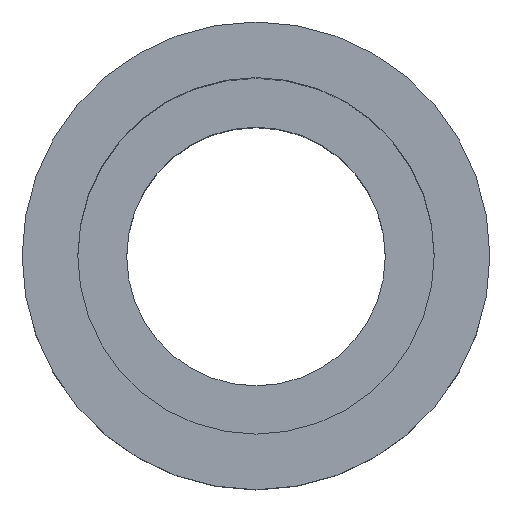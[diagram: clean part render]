
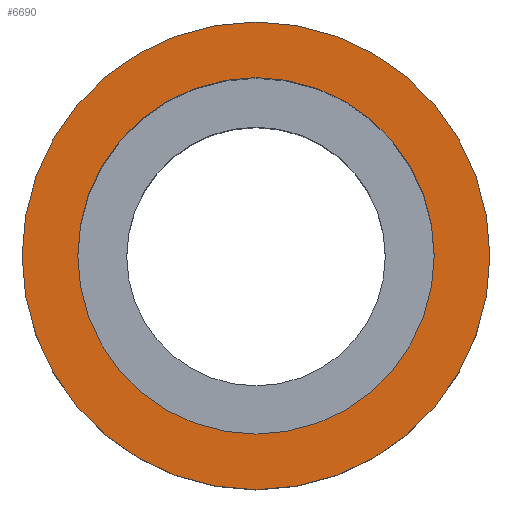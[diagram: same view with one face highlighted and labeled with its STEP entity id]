
A CAD part, top view. The second image highlights one B-rep face of the part: STEP entity #6690.
In plain terms, the highlighted planar face has unit normal (0, 0, 1) as drawn and (-1, 0, 0) by its records, which use the part's own axes.
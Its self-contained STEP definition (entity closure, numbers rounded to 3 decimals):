
#4640=CARTESIAN_POINT('',(-44.548,-20.,-17.3));
#4650=VERTEX_POINT('',#4640);
#4810=CARTESIAN_POINT('',(-44.548,-20.,17.3));
#4820=VERTEX_POINT('',#4810);
#4850=CARTESIAN_POINT('',(-44.548,-20.,0.));
#4860=DIRECTION('',(-1.,0.,0.));
#4870=DIRECTION('',(0.,0.,1.));
#4880=AXIS2_PLACEMENT_3D('',#4850,#4860,#4870);
#4890=CIRCLE('',#4880,17.3);
#4900=EDGE_CURVE('',#4650,#4820,#4890,.T.);
#6440=CARTESIAN_POINT('',(-44.548,-41.3,0.));
#6450=DIRECTION('',(-1.,0.,-0.));
#6460=DIRECTION('',(0.,1.,0.));
#6470=AXIS2_PLACEMENT_3D('',#6440,#6450,#6460);
#6480=PLANE('',#6470);
#6490=EDGE_CURVE('',#4820,#4650,#4890,.T.);
#6500=ORIENTED_EDGE('',*,*,#6490,.F.);
#6510=ORIENTED_EDGE('',*,*,#4900,.F.);
#6520=EDGE_LOOP('',(#6510,#6500));
#6530=FACE_BOUND('',#6520,.T.);
#6540=CARTESIAN_POINT('',(-44.548,-20.,0.));
#6550=DIRECTION('',(-1.,0.,0.));
#6560=DIRECTION('',(0.,1.,0.));
#6570=AXIS2_PLACEMENT_3D('',#6540,#6550,#6560);
#6580=CIRCLE('',#6570,22.7);
#6590=CARTESIAN_POINT('',(-44.548,2.7,0.));
#6600=VERTEX_POINT('',#6590);
#6610=CARTESIAN_POINT('',(-44.548,-42.7,0.));
#6620=VERTEX_POINT('',#6610);
#6630=EDGE_CURVE('',#6600,#6620,#6580,.T.);
#6640=ORIENTED_EDGE('',*,*,#6630,.T.);
#6650=EDGE_CURVE('',#6620,#6600,#6580,.T.);
#6660=ORIENTED_EDGE('',*,*,#6650,.T.);
#6670=EDGE_LOOP('',(#6660,#6640));
#6680=FACE_OUTER_BOUND('',#6670,.T.);
#6690=ADVANCED_FACE('',(#6530,#6680),#6480,.T.);
